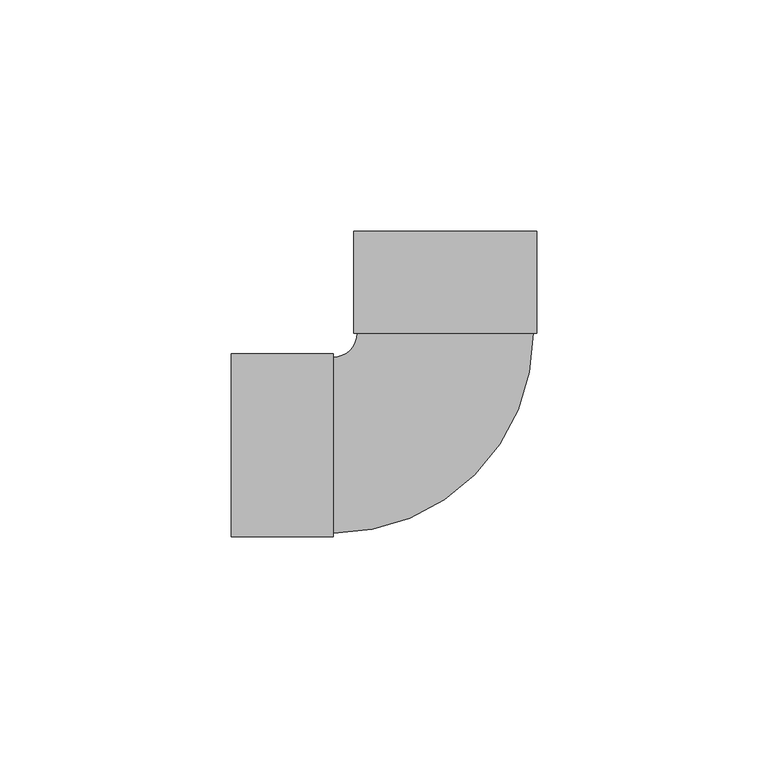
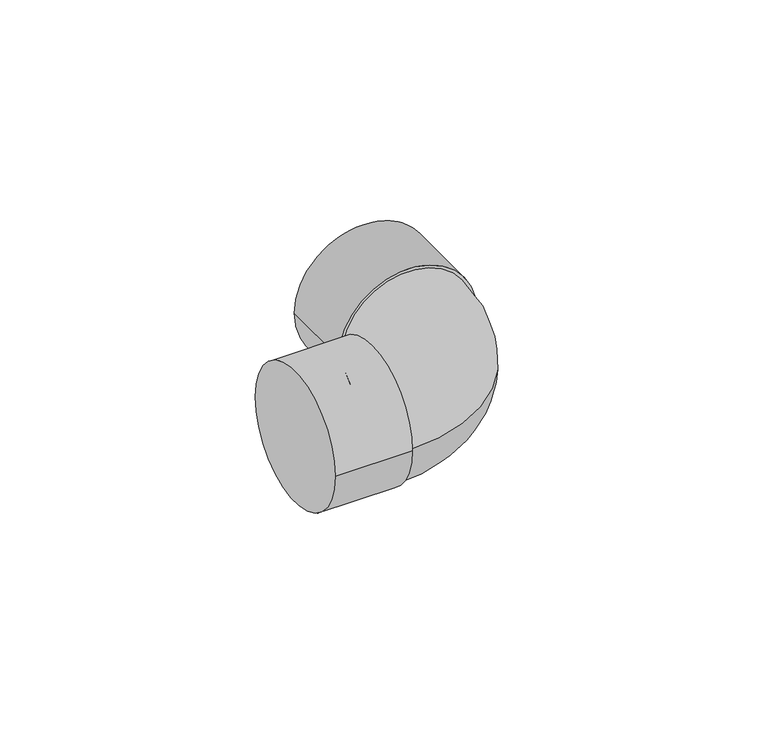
"""IFC4 building model written with IfcOpenShell, lengths in millimetres: pipe fitting geometry, Cotovelo - Soldado - CU : Padrão."""

from ifc_helpers import new_model, si_unit, point, frame, origin, place, context, project, spatial, circle_curve, ellipse_curve, trimmed, source, transform, mapped, element, save
from ifc_brep_helpers import plane_surface, cylinder_surface, revolved_surface, advanced_brep


def pipe_fitting_b8067b9a(model_context):
    return source(origin(), model_context, "Body", "AdvancedBrep", [
        advanced_brep(
        [(-19.0499636, 24.2110286, 0.0), (-24.211, 19.05, 0.0), (-24.211, -19.05, 0.0), (19.0500364, 24.2109714, 0.0), (-46.318, -19.831, 0.0), (-46.318, 19.831, 0.0), (-24.211, -19.831, 0.0), (-24.211, 19.831, 0.0), (-19.8309304, 46.3180298, 0.0), (19.8310696, 46.3179702, 0.0), (-19.8309636, 24.2110298, 0.0), (19.8310364, 24.2109702, 0.0)],
        [
            (0, 1, circle_curve(frame((-24.211, 24.2110364, 0.0), z_axis=(0.0, 0.0, -1.0), x_axis=(0.0, -1.0, 0.0)), 5.1610364)),
            (1, 2, circle_curve(frame((-24.211, 0.0, 0.0), z_axis=(1.0, 0.0, 0.0), x_axis=(0.0, 1.0, 0.0)), 19.05)),
            (2, 3, circle_curve(frame((-24.211, 24.2110364, 0.0), z_axis=(0.0, 0.0, 1.0), x_axis=(0.0, -1.0, 0.0)), 43.2610364)),
            (3, 0, circle_curve(frame((3.64e-05, 24.211, 0.0), z_axis=(-1.5037195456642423e-06, -0.9999999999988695, 0.0), x_axis=(-0.9999999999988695, 1.5037195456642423e-06, 0.0)), 19.05)),
            (0, 3, circle_curve(frame((3.64e-05, 24.211, 0.0), z_axis=(-1.5037195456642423e-06, -0.9999999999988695, 0.0), x_axis=(-0.9999999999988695, 1.5037195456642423e-06, 0.0)), 19.05)),
            (2, 1, circle_curve(frame((-24.211, 0.0, 0.0), z_axis=(1.0, 0.0, 0.0), x_axis=(0.0, 1.0, 0.0)), 19.05)),
            (4, 5, circle_curve(frame((-46.318, 0.0, 0.0), z_axis=(-1.0, 0.0, 0.0), x_axis=(0.0, 1.0, 0.0)), 19.831)),
            (5, 4, circle_curve(frame((-46.318, 0.0, 0.0), z_axis=(-1.0, 0.0, 0.0), x_axis=(0.0, 1.0, 0.0)), 19.831)),
            (6, 7, circle_curve(frame((-24.211, 0.0, 0.0), z_axis=(1.0, 0.0, 0.0), x_axis=(0.0, 1.0, 0.0)), 19.831)),
            (7, 6, circle_curve(frame((-24.211, 0.0, 0.0), z_axis=(1.0, 0.0, 0.0), x_axis=(0.0, 1.0, 0.0)), 19.831)),
            (4, 6),
            (7, 5),
            (8, 9, circle_curve(frame((6.96e-05, 46.318, 0.0), z_axis=(1.5037195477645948e-06, 0.9999999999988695, 0.0), x_axis=(0.9999999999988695, -1.5037195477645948e-06, 0.0)), 19.831)),
            (9, 8, circle_curve(frame((6.96e-05, 46.318, 0.0), z_axis=(1.5037195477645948e-06, 0.9999999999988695, 0.0), x_axis=(0.9999999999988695, -1.5037195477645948e-06, 0.0)), 19.831)),
            (10, 11, circle_curve(frame((3.64e-05, 24.211, 0.0), z_axis=(-1.5037195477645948e-06, -0.9999999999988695, 0.0), x_axis=(0.9999999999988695, -1.5037195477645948e-06, 0.0)), 19.831)),
            (11, 10, circle_curve(frame((3.64e-05, 24.211, 0.0), z_axis=(-1.5037195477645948e-06, -0.9999999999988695, 0.0), x_axis=(0.9999999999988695, -1.5037195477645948e-06, 0.0)), 19.831)),
            (8, 10),
            (11, 9),
        ],
        [
            revolved_surface(trimmed(ellipse_curve(frame((-24.211, 0.0, 0.0), z_axis=(-1.0, 0.0, 0.0), x_axis=(0.0, 1.0, 0.0)), 19.05, 19.05), [point((-24.211, -19.05, 0.0))], [point((-24.211, 19.05, 0.0))], True, "CARTESIAN"), (-24.211, 24.2110364, 0.0), (0.0, 0.0, 1.0)),
            revolved_surface(trimmed(ellipse_curve(frame((-24.211, 0.0, 0.0), z_axis=(-1.0, 0.0, 0.0), x_axis=(0.0, 1.0, 0.0)), 19.05, 19.05), [point((-24.211, 19.05, 0.0))], [point((-24.211, -19.05, 0.0))], True, "CARTESIAN"), (-24.211, 24.2110364, 0.0), (0.0, 0.0, 1.0)),
            plane_surface(frame((-46.318, 0.0, 0.0), z_axis=(-1.0, 0.0, 0.0), x_axis=(0.0, 0.0, 1.0))),
            plane_surface(frame((-24.211, 0.0, 0.0), z_axis=(1.0, 0.0, 0.0), x_axis=(0.0, 0.0, 1.0))),
            cylinder_surface(frame((-46.318, 0.0, 0.0), z_axis=(-1.0, 0.0, 0.0), x_axis=(0.0, 1.0, 0.0)), 19.831),
            plane_surface(frame((6.96e-05, 46.318, 0.0), z_axis=(1.5037195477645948e-06, 0.9999999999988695, 0.0), x_axis=(0.0, 0.0, 1.0))),
            plane_surface(frame((3.64e-05, 24.211, 0.0), z_axis=(-1.5037195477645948e-06, -0.9999999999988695, 0.0), x_axis=(0.0, 0.0, 1.0))),
            cylinder_surface(frame((6.96e-05, 46.318, 0.0), z_axis=(1.5037195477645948e-06, 0.9999999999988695, 0.0), x_axis=(0.9999999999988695, -1.5037195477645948e-06, 0.0)), 19.831),
        ],
        [
            (0, [[1, 2, 3, 4]]),
            (1, [[-1, 5, -3, 6]]),
            (2, [[7, 8]]),
            (3, [[9, 10], [-2, -6]]),
            (4, [[-7, 11, -10, 12]]),
            (4, [[-8, -12, -9, -11]]),
            (5, [[13, 14]]),
            (6, [[15, 16], [-4, -5]]),
            (7, [[-13, 17, -16, 18]]),
            (7, [[-14, -18, -15, -17]]),
        ],
    ),
    ])


if __name__ == "__main__":
    model = new_model("IFC4")
    model_context = context("Model", 3, world=origin())
    ifc_project = project(units=[si_unit("LENGTHUNIT", "METRE", prefix="MILLI")], contexts=[model_context])
    site = spatial("IfcSite", under=ifc_project)
    building = spatial("IfcBuilding", under=site)
    placement = place(None, origin())
    pipe_fitting_shape = pipe_fitting_b8067b9a(model_context)
    element("IfcPipeFitting", 1, ObjectType="Cotovelo - Soldado - CU : Padrão", at=placement, inside=building, context=model_context, shape_type="MappedRepresentation", body=[
        mapped(pipe_fitting_shape, transform((0.0, 0.0, 0.0), x_axis=(1.0, 0.0, 0.0), y_axis=(0.0, 1.0, 0.0), z_axis=(0.0, 0.0, 1.0))),
    ])
    save(model, "model.ifc")
